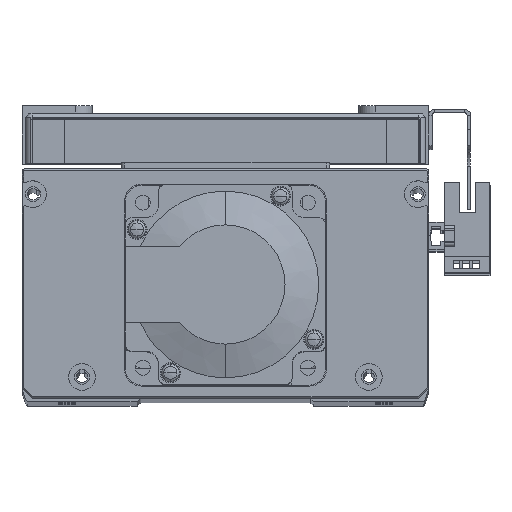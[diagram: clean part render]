
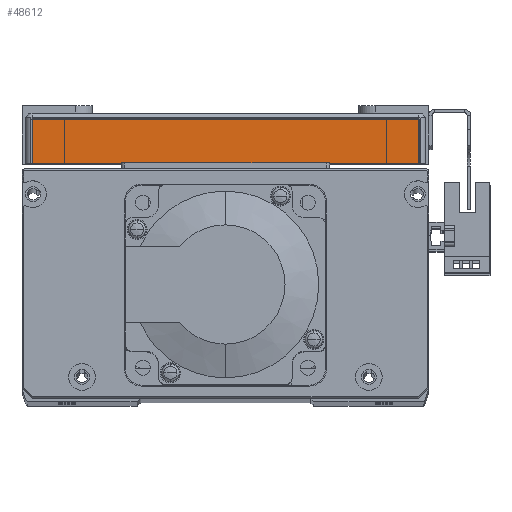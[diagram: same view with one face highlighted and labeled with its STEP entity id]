
A CAD part, top view. The second image highlights one B-rep face of the part: STEP entity #48612.
In plain terms, the highlighted planar face has unit normal (0, 0, 1) as drawn and (1, 0, 0) by its records, which use the part's own axes.
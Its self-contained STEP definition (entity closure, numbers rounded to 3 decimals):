
#726 = ORIENTED_EDGE ( 'NONE', *, *, #50083, .T. ) ;
#762 = ORIENTED_EDGE ( 'NONE', *, *, #50063, .T. ) ;
#792 = ORIENTED_EDGE ( 'NONE', *, *, #50115, .T. ) ;
#795 = ORIENTED_EDGE ( 'NONE', *, *, #50089, .T. ) ;
#14147 = FACE_OUTER_BOUND ( 'NONE', #56161, .T. ) ;
#15218 = CARTESIAN_POINT ( 'NONE',  ( 82.5, 15., -60. ) ) ;
#15220 = DIRECTION ( 'NONE',  ( -1., 0., 0. ) ) ;
#15237 = PLANE ( 'NONE',  #27605 ) ;
#15240 = DIRECTION ( 'NONE',  ( 0., 0., 1. ) ) ;
#25344 = CARTESIAN_POINT ( 'NONE',  ( 82.5, 14., 58. ) ) ;
#25378 = CARTESIAN_POINT ( 'NONE',  ( 82.5, 0., 58. ) ) ;
#25417 = CARTESIAN_POINT ( 'NONE',  ( 82.5, 14., -58. ) ) ;
#25421 = CARTESIAN_POINT ( 'NONE',  ( 82.5, 0., -58. ) ) ;
#27605 = AXIS2_PLACEMENT_3D ( 'NONE', #15218, #15220, #15240 ) ;
#40373 = VERTEX_POINT ( 'NONE', #25344 ) ;
#40420 = VERTEX_POINT ( 'NONE', #25421 ) ;
#40432 = VERTEX_POINT ( 'NONE', #25417 ) ;
#40489 = VERTEX_POINT ( 'NONE', #25378 ) ;
#42549 = CARTESIAN_POINT ( 'NONE',  ( 82.5, 15., -58. ) ) ;
#42609 = DIRECTION ( 'NONE',  ( 0., 1., 0. ) ) ;
#42653 = DIRECTION ( 'NONE',  ( 0., 0., -1. ) ) ;
#42660 = CARTESIAN_POINT ( 'NONE',  ( 82.5, 15., 58. ) ) ;
#42668 = CARTESIAN_POINT ( 'NONE',  ( 82.5, 0., -60. ) ) ;
#42669 = DIRECTION ( 'NONE',  ( 0., -1., 0. ) ) ;
#42677 = DIRECTION ( 'NONE',  ( 0., 0., 1. ) ) ;
#42711 = CARTESIAN_POINT ( 'NONE',  ( 82.5, 14., 58. ) ) ;
#43177 = VECTOR ( 'NONE', #42609, 1000. ) ;
#43192 = LINE ( 'NONE', #42549, #43177 ) ;
#43207 = VECTOR ( 'NONE', #42653, 1000. ) ;
#43221 = LINE ( 'NONE', #42660, #43248 ) ;
#43222 = LINE ( 'NONE', #42668, #43207 ) ;
#43248 = VECTOR ( 'NONE', #42669, 1000. ) ;
#43294 = VECTOR ( 'NONE', #42677, 1000. ) ;
#43309 = LINE ( 'NONE', #42711, #43294 ) ;
#48612 = ADVANCED_FACE ( 'NONE', ( #14147 ), #15237, .F. ) ;
#50063 = EDGE_CURVE ( 'NONE', #40420, #40432, #43192, .T. ) ;
#50083 = EDGE_CURVE ( 'NONE', #40373, #40489, #43221, .T. ) ;
#50089 = EDGE_CURVE ( 'NONE', #40489, #40420, #43222, .T. ) ;
#50115 = EDGE_CURVE ( 'NONE', #40432, #40373, #43309, .T. ) ;
#56161 = EDGE_LOOP ( 'NONE', ( #762, #792, #726, #795 ) ) ;
